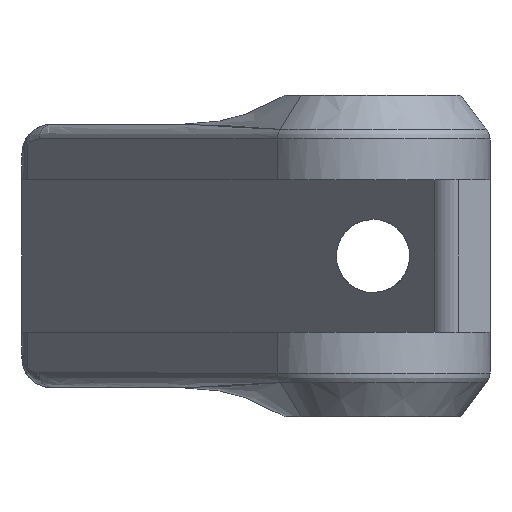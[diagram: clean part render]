
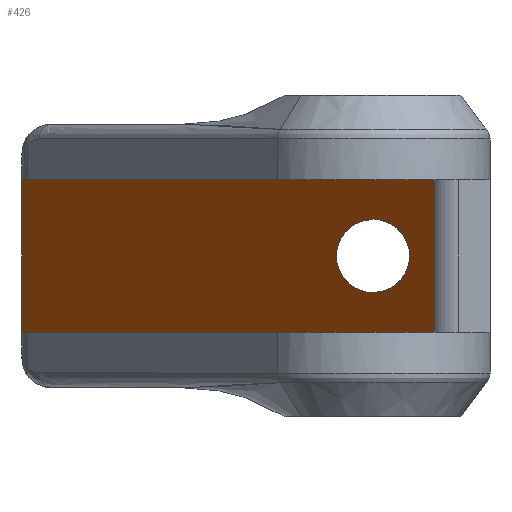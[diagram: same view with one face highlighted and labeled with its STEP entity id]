
A CAD part, front view. The second image highlights one B-rep face of the part: STEP entity #426.
In plain terms, the highlighted planar face has unit normal (-0.819, -0.574, 0).
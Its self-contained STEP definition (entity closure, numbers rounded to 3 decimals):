
#1 = LINE ( 'NONE', #144, #3 ) ;
#3 = VECTOR ( 'NONE', #140, 1000. ) ;
#81 = CARTESIAN_POINT ( 'NONE',  ( 2.114, 4.826, -2.6 ) ) ;
#83 = DIRECTION ( 'NONE',  ( 0., 0., 1. ) ) ;
#90 = CARTESIAN_POINT ( 'NONE',  ( 0., 7.846, -1.25 ) ) ;
#111 = CARTESIAN_POINT ( 'NONE',  ( 2.5, 4.275, 1.25 ) ) ;
#121 = CARTESIAN_POINT ( 'NONE',  ( 0., 7.846, 1.25 ) ) ;
#127 = CARTESIAN_POINT ( 'NONE',  ( 2.5, 4.275, -1.25 ) ) ;
#140 = DIRECTION ( 'NONE',  ( -0.574, 0.819, 0. ) ) ;
#144 = CARTESIAN_POINT ( 'NONE',  ( -12., 24.983, 2.6 ) ) ;
#290 = CARTESIAN_POINT ( 'NONE',  ( 2.114, 4.826, 2.6 ) ) ;
#291 = CARTESIAN_POINT ( 'NONE',  ( -12., 24.983, -2.6 ) ) ;
#312 = CARTESIAN_POINT ( 'NONE',  ( 2.114, 4.826, -2.6 ) ) ;
#332 = CARTESIAN_POINT ( 'NONE',  ( 0., 7.846, 1.25 ) ) ;
#360 = CARTESIAN_POINT ( 'NONE',  ( 0., 7.846, -1.25 ) ) ;
#366 = CARTESIAN_POINT ( 'NONE',  ( -12., 24.983, 2.6 ) ) ;
#426 = ADVANCED_FACE ( 'NONE', ( #746, #748 ), #1952, .F. ) ;
#493 = EDGE_CURVE ( 'NONE', #1535, #1528, #577, .T. ) ;
#577 =( BOUNDED_CURVE ( )  B_SPLINE_CURVE ( 3, ( #2814, #2825, #2833, #2827 ),
 .UNSPECIFIED., .F., .T. ) 
 B_SPLINE_CURVE_WITH_KNOTS ( ( 4, 4 ),
 ( 4.712, 7.854 ),
 .UNSPECIFIED. ) 
 CURVE ( )  GEOMETRIC_REPRESENTATION_ITEM ( )  RATIONAL_B_SPLINE_CURVE ( ( 1., 0.333, 0.333, 1. ) ) 
 REPRESENTATION_ITEM ( '' )  );
#578 =( BOUNDED_CURVE ( )  B_SPLINE_CURVE ( 3, ( #90, #127, #111, #121 ),
 .UNSPECIFIED., .F., .T. ) 
 B_SPLINE_CURVE_WITH_KNOTS ( ( 4, 4 ),
 ( 1.571, 4.712 ),
 .UNSPECIFIED. ) 
 CURVE ( )  GEOMETRIC_REPRESENTATION_ITEM ( )  RATIONAL_B_SPLINE_CURVE ( ( 1., 0.333, 0.333, 1. ) ) 
 REPRESENTATION_ITEM ( '' )  );
#722 = VECTOR ( 'NONE', #3046, 1000. ) ;
#728 = VECTOR ( 'NONE', #83, 1000. ) ;
#729 = LINE ( 'NONE', #3044, #722 ) ;
#734 = LINE ( 'NONE', #81, #728 ) ;
#736 = LINE ( 'NONE', #2962, #737 ) ;
#737 = VECTOR ( 'NONE', #3028, 1000. ) ;
#746 = FACE_OUTER_BOUND ( 'NONE', #1153, .T. ) ;
#748 = FACE_BOUND ( 'NONE', #1184, .T. ) ;
#1027 = ORIENTED_EDGE ( 'NONE', *, *, #1345, .T. ) ;
#1041 = ORIENTED_EDGE ( 'NONE', *, *, #1368, .T. ) ;
#1050 = ORIENTED_EDGE ( 'NONE', *, *, #1331, .F. ) ;
#1053 = ORIENTED_EDGE ( 'NONE', *, *, #1334, .F. ) ;
#1073 = ORIENTED_EDGE ( 'NONE', *, *, #1355, .F. ) ;
#1074 = ORIENTED_EDGE ( 'NONE', *, *, #493, .F. ) ;
#1153 = EDGE_LOOP ( 'NONE', ( #1053, #1027, #1041, #1050 ) ) ;
#1184 = EDGE_LOOP ( 'NONE', ( #1074, #1073 ) ) ;
#1331 = EDGE_CURVE ( 'NONE', #1485, #1553, #736, .T. ) ;
#1334 = EDGE_CURVE ( 'NONE', #1501, #1485, #729, .T. ) ;
#1345 = EDGE_CURVE ( 'NONE', #1501, #1495, #734, .T. ) ;
#1355 = EDGE_CURVE ( 'NONE', #1528, #1535, #578, .T. ) ;
#1368 = EDGE_CURVE ( 'NONE', #1495, #1553, #1, .T. ) ;
#1407 = AXIS2_PLACEMENT_3D ( 'NONE', #1936, #1957, #1917 ) ;
#1485 = VERTEX_POINT ( 'NONE', #291 ) ;
#1495 = VERTEX_POINT ( 'NONE', #290 ) ;
#1501 = VERTEX_POINT ( 'NONE', #312 ) ;
#1528 = VERTEX_POINT ( 'NONE', #360 ) ;
#1535 = VERTEX_POINT ( 'NONE', #332 ) ;
#1553 = VERTEX_POINT ( 'NONE', #366 ) ;
#1917 = DIRECTION ( 'NONE',  ( -0.574, 0.819, 0. ) ) ;
#1936 = CARTESIAN_POINT ( 'NONE',  ( -12., 24.983, -2.6 ) ) ;
#1952 = PLANE ( 'NONE',  #1407 ) ;
#1957 = DIRECTION ( 'NONE',  ( 0.819, 0.574, 0. ) ) ;
#2814 = CARTESIAN_POINT ( 'NONE',  ( 0., 7.846, 1.25 ) ) ;
#2825 = CARTESIAN_POINT ( 'NONE',  ( -2.5, 11.416, 1.25 ) ) ;
#2827 = CARTESIAN_POINT ( 'NONE',  ( 0., 7.846, -1.25 ) ) ;
#2833 = CARTESIAN_POINT ( 'NONE',  ( -2.5, 11.416, -1.25 ) ) ;
#2962 = CARTESIAN_POINT ( 'NONE',  ( -12., 24.983, -2.6 ) ) ;
#3028 = DIRECTION ( 'NONE',  ( 0., 0., 1. ) ) ;
#3044 = CARTESIAN_POINT ( 'NONE',  ( -12., 24.983, -2.6 ) ) ;
#3046 = DIRECTION ( 'NONE',  ( -0.574, 0.819, 0. ) ) ;
